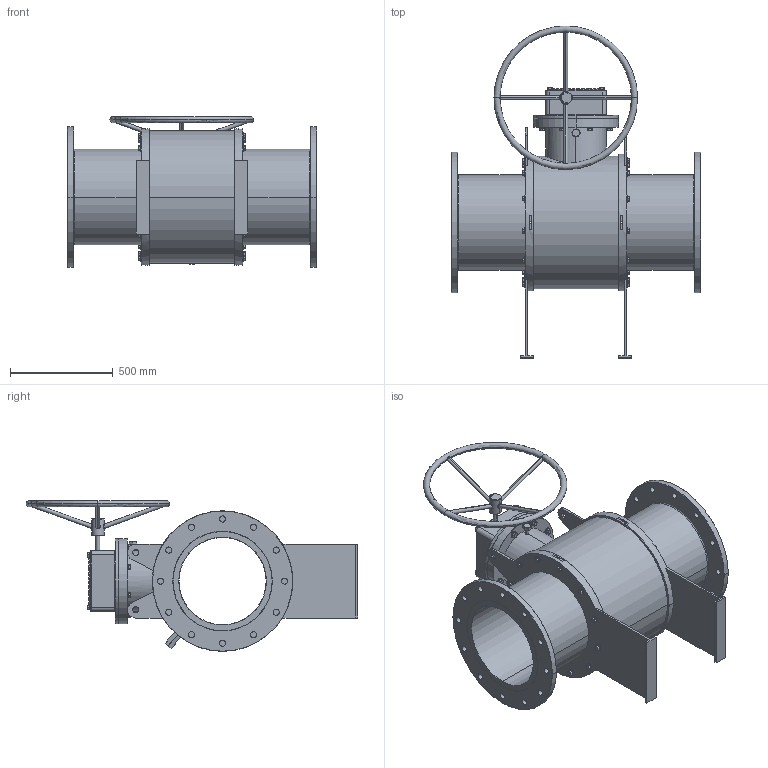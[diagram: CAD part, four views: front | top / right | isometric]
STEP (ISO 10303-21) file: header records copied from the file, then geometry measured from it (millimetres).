
FILE_DESCRIPTION (( 'STEP AP203' ), '1' );
FILE_NAME ('GB2_ANSI_900_18IN_HD.STEP', '2025-10-09T15:12:55', ( '' ), ( '' ), 'SwSTEP 2.0', 'SolidWorks 2025', '' );
FILE_SCHEMA (( 'CONFIG_CONTROL_DESIGN' ));
Length unit declared in the file: millimetre
Products named in the file (3): hex flange screw_am_B18.2.3.4M - Hex flange screw, M16 x 2.0 x 25 --25N; GB2_ANSI_900_18IN_HD; GB2_ANSI_2500_1500_ANSI_900_18IN
Assembly tree (37 placements, depth 2):
  GB2_ANSI_900_18IN_HD
    GB2_ANSI_2500_1500_ANSI_900_18IN
    hex flange screw_am_B18.2.3.4M - Hex flange screw, M16 x 2.0 x 25 --25N  x36
Bounding box: 1219 x 1618 x 735.23 mm (x, y, z)
Volume: 161136879.1 mm3; surface area: 7068282.7 mm2
Topology: 38 solids, 38 shells, 1607 faces, 3640 edges, 2196 vertices
Faces by surface type: plane 530, cone 392, cylinder 297, bspline 286, torus 96, sphere 6
Entity records: 27413 total; most frequent: CARTESIAN_POINT 12018, ORIENTED_EDGE 2932, DIRECTION 2908, EDGE_CURVE 1466, AXIS2_PLACEMENT_3D 1112, VERTEX_POINT 934, EDGE_LOOP 736, LINE 684
